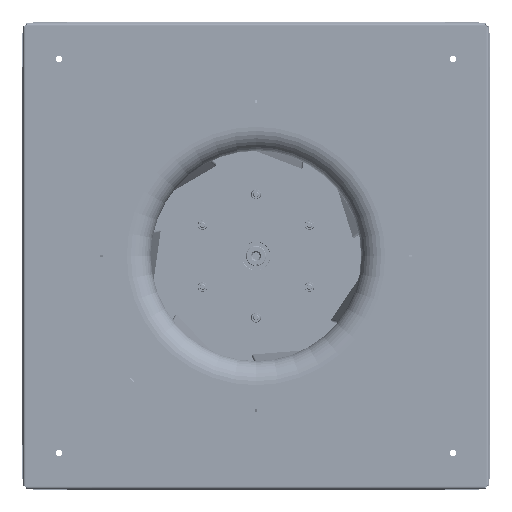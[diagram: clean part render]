
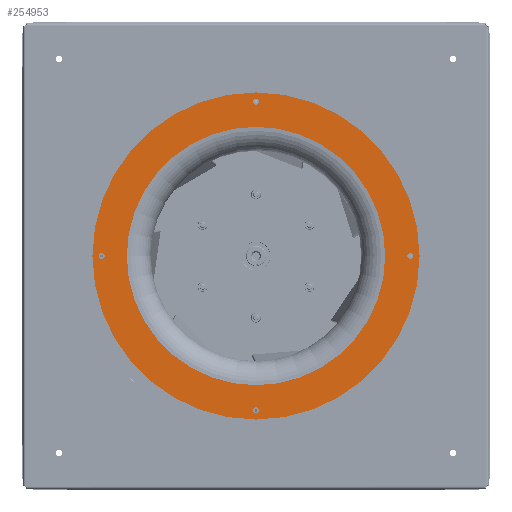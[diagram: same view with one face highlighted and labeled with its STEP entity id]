
A CAD part, front view. The second image highlights one B-rep face of the part: STEP entity #254953.
In plain terms, the highlighted planar face has unit normal (0, -1, 0) as drawn and (0, 0, 1) by its records, which use the part's own axes.
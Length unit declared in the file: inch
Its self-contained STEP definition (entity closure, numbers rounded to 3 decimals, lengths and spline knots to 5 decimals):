
#1700 = EDGE_LOOP ( 'NONE', ( #5993, #85123 ) ) ;
#2268 = EDGE_CURVE ( 'NONE', #67920, #23192, #81764, .T. ) ;
#3409 = AXIS2_PLACEMENT_3D ( 'NONE', #235322, #184806, #256160 ) ;
#5993 = ORIENTED_EDGE ( 'NONE', *, *, #31657, .F. ) ;
#6314 = DIRECTION ( 'NONE',  ( 0., 0., 1. ) ) ;
#7609 = CARTESIAN_POINT ( 'NONE',  ( 8.62205, 0.16732, 0. ) ) ;
#9319 = VERTEX_POINT ( 'NONE', #145991 ) ;
#11623 = CARTESIAN_POINT ( 'NONE',  ( 0., 8.62205, 0. ) ) ;
#12907 = DIRECTION ( 'NONE',  ( 1., 0., 0. ) ) ;
#19692 = VERTEX_POINT ( 'NONE', #94891 ) ;
#20849 = CIRCLE ( 'NONE', #182461, 9.13386 ) ;
#22845 = CARTESIAN_POINT ( 'NONE',  ( 0., -8.62205, 0. ) ) ;
#23192 = VERTEX_POINT ( 'NONE', #193590 ) ;
#24655 = AXIS2_PLACEMENT_3D ( 'NONE', #173577, #60555, #130406 ) ;
#31657 = EDGE_CURVE ( 'NONE', #197064, #163041, #150517, .T. ) ;
#33643 = DIRECTION ( 'NONE',  ( 0., 0., 1. ) ) ;
#38373 = DIRECTION ( 'NONE',  ( 0., 0., 1. ) ) ;
#38382 = VERTEX_POINT ( 'NONE', #105965 ) ;
#39037 = AXIS2_PLACEMENT_3D ( 'NONE', #55954, #33643, #146679 ) ;
#40850 = FACE_OUTER_BOUND ( 'NONE', #110655, .T. ) ;
#45285 = FACE_BOUND ( 'NONE', #1700, .T. ) ;
#53147 = CIRCLE ( 'NONE', #233615, 0.16732 ) ;
#55954 = CARTESIAN_POINT ( 'NONE',  ( 8.62205, 0., 0. ) ) ;
#60555 = DIRECTION ( 'NONE',  ( 0., 0., 1. ) ) ;
#67515 = AXIS2_PLACEMENT_3D ( 'NONE', #200491, #38373, #173703 ) ;
#67920 = VERTEX_POINT ( 'NONE', #184867 ) ;
#69019 = PLANE ( 'NONE',  #293725 ) ;
#74286 = AXIS2_PLACEMENT_3D ( 'NONE', #22845, #182018, #202884 ) ;
#77419 = EDGE_LOOP ( 'NONE', ( #119400, #98621 ) ) ;
#80056 = CARTESIAN_POINT ( 'NONE',  ( -0.16732, -8.62205, 0. ) ) ;
#81764 = CIRCLE ( 'NONE', #271879, 0.16732 ) ;
#85123 = ORIENTED_EDGE ( 'NONE', *, *, #274325, .F. ) ;
#88401 = FACE_BOUND ( 'NONE', #77419, .T. ) ;
#91943 = DIRECTION ( 'NONE',  ( 0., 1., 0. ) ) ;
#94380 = EDGE_CURVE ( 'NONE', #288897, #187965, #216972, .T. ) ;
#94891 = CARTESIAN_POINT ( 'NONE',  ( -7.21457, 0., 0. ) ) ;
#98621 = ORIENTED_EDGE ( 'NONE', *, *, #224753, .F. ) ;
#101908 = AXIS2_PLACEMENT_3D ( 'NONE', #225877, #133635, #91943 ) ;
#102180 = DIRECTION ( 'NONE',  ( 0., 0., 1. ) ) ;
#105965 = CARTESIAN_POINT ( 'NONE',  ( 7.21457, 0., 0. ) ) ;
#106949 = ORIENTED_EDGE ( 'NONE', *, *, #179391, .F. ) ;
#110655 = EDGE_LOOP ( 'NONE', ( #286697, #291066 ) ) ;
#112146 = FACE_BOUND ( 'NONE', #222812, .T. ) ;
#119400 = ORIENTED_EDGE ( 'NONE', *, *, #201198, .F. ) ;
#123498 = EDGE_LOOP ( 'NONE', ( #280532, #153729 ) ) ;
#130406 = DIRECTION ( 'NONE',  ( 0., 1., 0. ) ) ;
#133349 = AXIS2_PLACEMENT_3D ( 'NONE', #194385, #102180, #12907 ) ;
#133635 = DIRECTION ( 'NONE',  ( 0., 0., 1. ) ) ;
#143542 = CIRCLE ( 'NONE', #67515, 0.16732 ) ;
#145991 = CARTESIAN_POINT ( 'NONE',  ( -8.62205, 0.16732, 0. ) ) ;
#146679 = DIRECTION ( 'NONE',  ( 0., -1., 0. ) ) ;
#148925 = EDGE_LOOP ( 'NONE', ( #167342, #106949 ) ) ;
#149446 = CIRCLE ( 'NONE', #101908, 0.16732 ) ;
#150517 = CIRCLE ( 'NONE', #3409, 0.16732 ) ;
#153729 = ORIENTED_EDGE ( 'NONE', *, *, #2268, .F. ) ;
#162933 = AXIS2_PLACEMENT_3D ( 'NONE', #232405, #6314, #256200 ) ;
#163041 = VERTEX_POINT ( 'NONE', #7609 ) ;
#164172 = CIRCLE ( 'NONE', #287754, 7.21457 ) ;
#167190 = DIRECTION ( 'NONE',  ( 1., 0., 0. ) ) ;
#167342 = ORIENTED_EDGE ( 'NONE', *, *, #186571, .F. ) ;
#173577 = CARTESIAN_POINT ( 'NONE',  ( -8.62205, 0., 0. ) ) ;
#173703 = DIRECTION ( 'NONE',  ( -1., 0., 0. ) ) ;
#176869 = CIRCLE ( 'NONE', #39037, 0.16732 ) ;
#179391 = EDGE_CURVE ( 'NONE', #227294, #9319, #200505, .T. ) ;
#182018 = DIRECTION ( 'NONE',  ( 0., 0., 1. ) ) ;
#182157 = CARTESIAN_POINT ( 'NONE',  ( 0., 0., 0. ) ) ;
#182461 = AXIS2_PLACEMENT_3D ( 'NONE', #182157, #252035, #228268 ) ;
#184806 = DIRECTION ( 'NONE',  ( 0., 0., 1. ) ) ;
#184867 = CARTESIAN_POINT ( 'NONE',  ( -0.16732, 8.62205, 0. ) ) ;
#186571 = EDGE_CURVE ( 'NONE', #9319, #227294, #149446, .T. ) ;
#187428 = CARTESIAN_POINT ( 'NONE',  ( 9.13386, 0., 0. ) ) ;
#187965 = VERTEX_POINT ( 'NONE', #195898 ) ;
#189349 = ORIENTED_EDGE ( 'NONE', *, *, #273952, .F. ) ;
#191405 = CIRCLE ( 'NONE', #162933, 7.21457 ) ;
#193590 = CARTESIAN_POINT ( 'NONE',  ( 0.16732, 8.62205, 0. ) ) ;
#194385 = CARTESIAN_POINT ( 'NONE',  ( 0., 0., 0. ) ) ;
#195898 = CARTESIAN_POINT ( 'NONE',  ( 0.16732, -8.62205, 0. ) ) ;
#197064 = VERTEX_POINT ( 'NONE', #238227 ) ;
#199366 = DIRECTION ( 'NONE',  ( 0., 0., 1. ) ) ;
#200491 = CARTESIAN_POINT ( 'NONE',  ( 0., -8.62205, 0. ) ) ;
#200505 = CIRCLE ( 'NONE', #24655, 0.16732 ) ;
#200852 = DIRECTION ( 'NONE',  ( 1., 0., 0. ) ) ;
#201198 = EDGE_CURVE ( 'NONE', #38382, #19692, #164172, .T. ) ;
#202884 = DIRECTION ( 'NONE',  ( -1., 0., 0. ) ) ;
#202952 = DIRECTION ( 'NONE',  ( 0., 0., -1. ) ) ;
#211833 = DIRECTION ( 'NONE',  ( 0., 0., 1. ) ) ;
#215513 = VERTEX_POINT ( 'NONE', #256833 ) ;
#216040 = ORIENTED_EDGE ( 'NONE', *, *, #94380, .F. ) ;
#216972 = CIRCLE ( 'NONE', #74286, 0.16732 ) ;
#222320 = FACE_BOUND ( 'NONE', #148925, .T. ) ;
#222812 = EDGE_LOOP ( 'NONE', ( #216040, #189349 ) ) ;
#224753 = EDGE_CURVE ( 'NONE', #19692, #38382, #191405, .T. ) ;
#225877 = CARTESIAN_POINT ( 'NONE',  ( -8.62205, 0., 0. ) ) ;
#227294 = VERTEX_POINT ( 'NONE', #248919 ) ;
#228268 = DIRECTION ( 'NONE',  ( 1., 0., 0. ) ) ;
#230038 = EDGE_CURVE ( 'NONE', #215513, #239035, #20849, .T. ) ;
#231870 = DIRECTION ( 'NONE',  ( 1., 0., 0. ) ) ;
#232405 = CARTESIAN_POINT ( 'NONE',  ( 0., 0., 0. ) ) ;
#233615 = AXIS2_PLACEMENT_3D ( 'NONE', #11623, #255668, #231870 ) ;
#235322 = CARTESIAN_POINT ( 'NONE',  ( 8.62205, 0., 0. ) ) ;
#238227 = CARTESIAN_POINT ( 'NONE',  ( 8.62205, -0.16732, 0. ) ) ;
#239035 = VERTEX_POINT ( 'NONE', #187428 ) ;
#244615 = CARTESIAN_POINT ( 'NONE',  ( 0., 9.13386, 0. ) ) ;
#247577 = DIRECTION ( 'NONE',  ( 0., -1., 0. ) ) ;
#248919 = CARTESIAN_POINT ( 'NONE',  ( -8.62205, -0.16732, 0. ) ) ;
#250451 = EDGE_CURVE ( 'NONE', #239035, #215513, #261602, .T. ) ;
#252035 = DIRECTION ( 'NONE',  ( 0., 0., 1. ) ) ;
#254953 = ADVANCED_FACE ( 'NONE', ( #88401, #272852, #222320, #112146, #45285, #40850 ), #69019, .F. ) ;
#255668 = DIRECTION ( 'NONE',  ( 0., 0., 1. ) ) ;
#256160 = DIRECTION ( 'NONE',  ( 0., -1., 0. ) ) ;
#256200 = DIRECTION ( 'NONE',  ( 1., 0., 0. ) ) ;
#256833 = CARTESIAN_POINT ( 'NONE',  ( -9.13386, 0., 0. ) ) ;
#261602 = CIRCLE ( 'NONE', #133349, 9.13386 ) ;
#263375 = CARTESIAN_POINT ( 'NONE',  ( 0., 0., 0. ) ) ;
#271879 = AXIS2_PLACEMENT_3D ( 'NONE', #281711, #211833, #167190 ) ;
#272852 = FACE_BOUND ( 'NONE', #123498, .T. ) ;
#273952 = EDGE_CURVE ( 'NONE', #187965, #288897, #143542, .T. ) ;
#274325 = EDGE_CURVE ( 'NONE', #163041, #197064, #176869, .T. ) ;
#280532 = ORIENTED_EDGE ( 'NONE', *, *, #283529, .F. ) ;
#281711 = CARTESIAN_POINT ( 'NONE',  ( 0., 8.62205, 0. ) ) ;
#283529 = EDGE_CURVE ( 'NONE', #23192, #67920, #53147, .T. ) ;
#286697 = ORIENTED_EDGE ( 'NONE', *, *, #250451, .T. ) ;
#287754 = AXIS2_PLACEMENT_3D ( 'NONE', #263375, #199366, #200852 ) ;
#288897 = VERTEX_POINT ( 'NONE', #80056 ) ;
#291066 = ORIENTED_EDGE ( 'NONE', *, *, #230038, .T. ) ;
#293725 = AXIS2_PLACEMENT_3D ( 'NONE', #244615, #202952, #247577 ) ;
